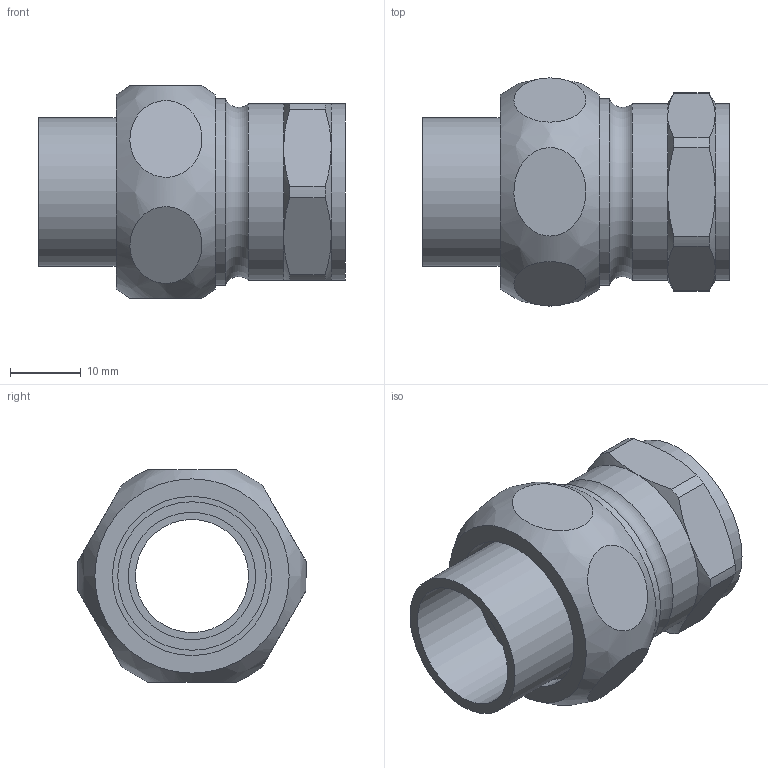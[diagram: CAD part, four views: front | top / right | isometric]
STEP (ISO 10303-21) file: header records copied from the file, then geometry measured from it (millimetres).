
FILE_DESCRIPTION(/* description */ (''),/* implementation_level */ '2;1');
FILE_NAME(/* name */ '\\LG50011\SANHA_Legnica\Engineering\Public\RYSUNKI\SANHA POLSKA\4330\inventor\14330_18-12(2).stp',/* time_stamp */ '2019-02-12T11:29:02+01:00',/* author */ ('gomulka'),/* organization */ (''),/* preprocessor_version */ 'ST-DEVELOPER v17',/* originating_system */ 'Autodesk Inventor 2019',/* authorisation */ '');
FILE_SCHEMA (('AUTOMOTIVE_DESIGN { 1 0 10303 214 3 1 1 }'));
Length unit declared in the file: millimetre
Products named in the file (5): 14330_18-12(2); 14372_18-34(1); 1DCU34; 14374_34(2); 14370g_12-34B(3)
Assembly tree (4 placements, depth 2):
  14330_18-12(2)
    14372_18-34(1)
    1DCU34
    14374_34(2)
    14370g_12-34B(3)
Bounding box: 43.37 x 32.23 x 30 mm (x, y, z)
Volume: 12657.5 mm3; surface area: 9956.2 mm2
Topology: 4 solids, 4 shells, 60 faces, 145 edges, 102 vertices
Faces by surface type: plane 24, cylinder 19, cone 15, bspline 1, torus 1
Full cylindrical faces by diameter (mm): 16 x1, 17 x2, 18 x1, 18.63 x1, 21 x1, 22.5 x1, 23 x1, 23.5 x1, 24.117 x1, 25 x2, 26.441 x1
Entity records: 2362 total; most frequent: CARTESIAN_POINT 737, DIRECTION 332, ORIENTED_EDGE 290, AXIS2_PLACEMENT_3D 152, EDGE_CURVE 145, VERTEX_POINT 102, CIRCLE 84, EDGE_LOOP 77
